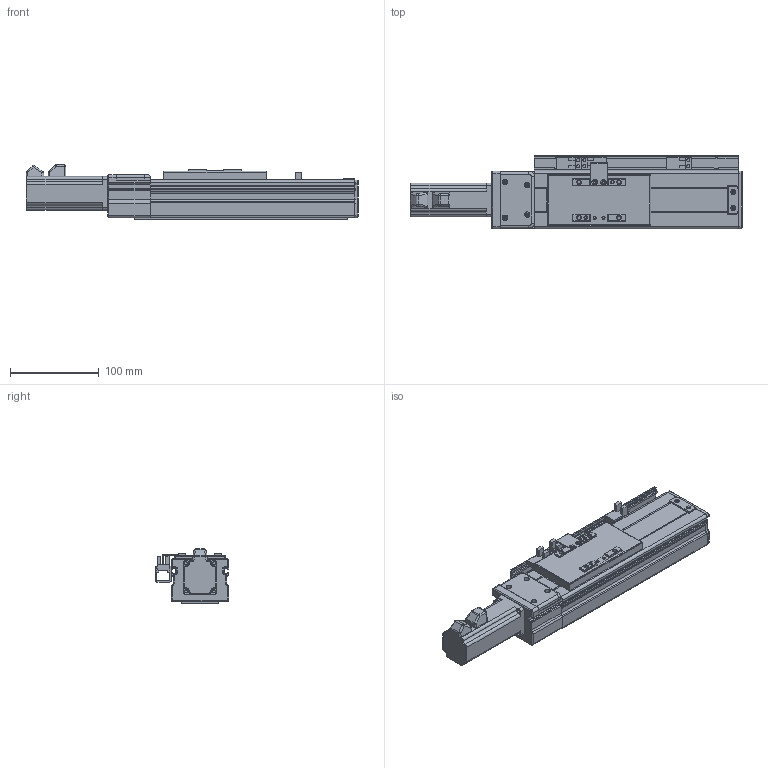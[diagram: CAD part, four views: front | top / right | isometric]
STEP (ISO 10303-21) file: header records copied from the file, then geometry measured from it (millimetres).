
FILE_DESCRIPTION (( 'STEP AP203' ), '1' );
FILE_NAME ('VT6-L10-C-S80-BC-P10-C4.STEP', '2015-10-26T04:04:43', ( '' ), ( '' ), 'SwSTEP 2.0', 'SolidWorks 2013', '' );
FILE_SCHEMA (( 'CONFIG_CONTROL_DESIGN' ));
Length unit declared in the file: millimetre
Products named in the file (15): ET6-BC耜啣_80; ET6-BC癹弇羲壽羞_80; T6-賑雄殤; T6-裔啣; T6-揤輸; T6-覜茼え; T6-綴傷裔; EE-XS674; ET6-BC絳寢_俴最80; ET6-BC滅鳥湍_80; T6-BCヶ傷裔揤啣; T6-BCヶ傷裔; 侂狟100W MSMD012G1U; ET6-BC佪裝_80; VT6-L10-C-S80-BC-P10-C4
Assembly tree (17 placements, depth 2):
  VT6-L10-C-S80-BC-P10-C4
    ET6-BC耜啣_80  x2
    ET6-BC癹弇羲壽羞_80
    T6-賑雄殤
    T6-裔啣
    T6-揤輸
    T6-覜茼え
    T6-綴傷裔
    EE-XS674  x3
    ET6-BC絳寢_俴最80
    ET6-BC滅鳥湍_80
    T6-BCヶ傷裔揤啣
    T6-BCヶ傷裔
    侂狟100W MSMD012G1U
    ET6-BC佪裝_80
Bounding box: 374 x 83 x 61 mm (x, y, z)
Volume: 537588.2 mm3; surface area: 247599.1 mm2
Topology: 17 solids, 17 shells, 852 faces, 2241 edges, 1412 vertices
Faces by surface type: plane 378, cylinder 372, cone 56, torus 28, sphere 18
Entity records: 25922 total; most frequent: CARTESIAN_POINT 4513, DIRECTION 4297, ORIENTED_EDGE 4008, EDGE_CURVE 2004, AXIS2_PLACEMENT_3D 1548, VERTEX_POINT 1272, LINE 1201, VECTOR 1201
